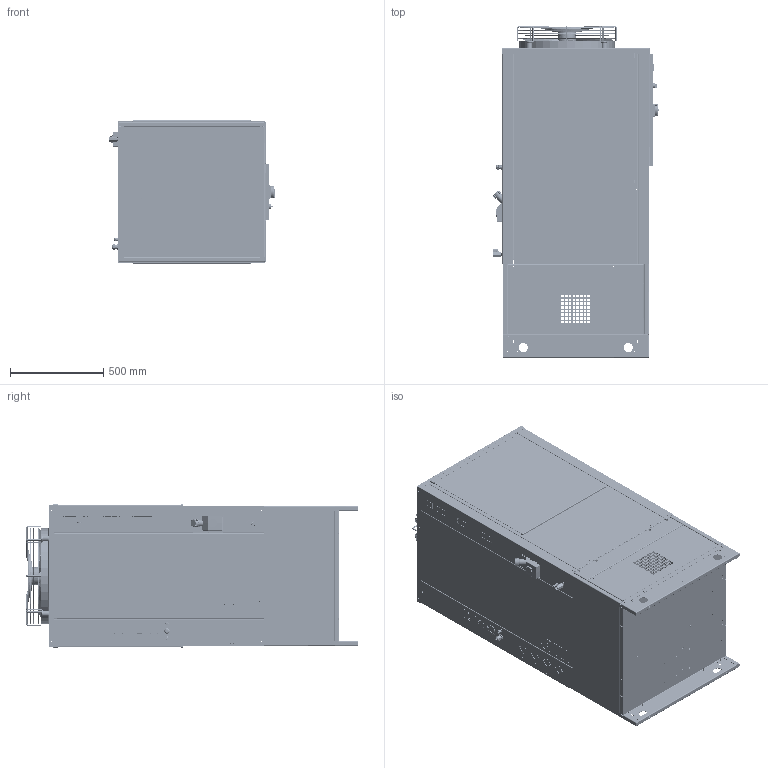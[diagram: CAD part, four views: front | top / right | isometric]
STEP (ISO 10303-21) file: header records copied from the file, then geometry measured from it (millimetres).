
FILE_DESCRIPTION (( 'STEP AP203' ), '1' );
FILE_NAME ('F2H-2C_REV_00.STEP', '2026-07-20T13:05:59', ( '' ), ( '' ), 'SwSTEP 2.0', 'SolidWorks 2023', '' );
FILE_SCHEMA (( 'CONFIG_CONTROL_DESIGN' ));
Length unit declared in the file: millimetre
Products named in the file (102): COPIA_VR-2F-00012_001; COPIA_T09-0146_DX; COPIA_CR-2F-00005_004; COPIA_CR-2F-00004_001; COPIA_G72-0024_2_SX; COPIA_350-012-C; COPIA_VR-2F-00012_001D_68X34; COPIA_CO-MI-00016  X0-CD0232-00(2)_DX_con bicchiere ; COPIA_PG 9_1_Socket-1.209.0900.14-Nelco; COPIA_VR-2F-00003_001; COPIA_VR-2F-00006_003; COPIA_VASCHETTA F2 COND DX 32; COPIA_VE-W5-00007_04; COPIA_T04-0187_DX; COPIA_VR-2F-00015_000; COPIA_VR-2F-00012_001B; COPIA_VR-2F-00014_000; COPIA_CO-MI-00017 - X0-CD0230-00(2)_SX; COPIA_T06-0208_2_SX; COPIA_PRT0002_11_AF0; COPIA_40-MI-E0009; COPIA_T04-0187_2_SX; COPIA_MOUSSE_ADESIVA_20X10_L645; COPIA_T06-0207_2_SX; COPIA_SE-RR-00025_000; COPIA_MOUSSE_ADESIVA_20X10_L659; COPIA_SE-RP-00044_002; COPIA_V84b-0644_2_SX; COPIA_VR-2F-00011_000; COPIA_CR-2F-00007_004; COPIA_CR-2F-00003_000; COPIA_COMPONENTI_VENTOLA_40-MI-E0009; COPIA_G72-0024_DX; COPIA_B72-0268_DX; COPIA_6D-400-S-018-2_22_AF0; COPIA_VR-2F-00007_004; COPIA_VA-A5-00001; COPIA_SELETTORE_NERO; COPIA_CO-MI-00016  X0-CD0232-00_DX; COPIA_Y0-CD0230_2_SX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
Assembly tree (219 placements, depth 8):
  F2H-2C_REV_00
    COPIA_40-MI-E0009
      COPIA_50-2F-00001-2_50-2F-00002_SENZA_BASE
        COPIA_VR-2F-00007_004
        COPIA_VR-2F-00008_003
        COPIA_VR-2F-00005_003
        COPIA_VR-2F-00006_003
        COPIA_CR-2F-00005_004
        COPIA_CR-2F-00006_003
          COPIA_CR-2F-00006_003A
          COPIA_CR-2F-00006_002B
        COPIA_VR-2F-00009_001
        COPIA_CR-2F-00007_004
          COPIA_CR-2F-00007_004
          COPIA_RIVELOX M5  x6
        COPIA_VR-2F-00010_000
        COPIA_VASCHETTA F2 COND SX 32
          COPIA_CO-MI-00017 - X0-CD0230-00(2)_SX
            COPIA_Y0-CD0230_2_SX
              COPIA_H48-0020_SX
              COPIA_H48-0021_2_SX
              COPIA_S82b-0690_2_SX  x10
              COPIA_B72-0268_2_SX  x10
              COPIA_V84b-0644_2_SX  x2
              COPIA_T03-0044_2_SX  x3
              COPIA_T04-0187_2_SX  x4
              COPIA_T06-0208_2_SX
              COPIA_T06-0207_2_SX
            COPIA_G82-0010_2_SX
            COPIA_G72-0024_2_SX
            COPIA_T09-0001_2_SX
            COPIA_T09-0146_2_SX
            COPIA_T09-0002_2_SX
          COPIA_PiedeCondensatoreDanfossD38  x4
          COPIA_CR-2F-00004_001
          COPIA_CR-2F-00003_000
        COPIA_VASCHETTA F2 COND DX 32
          COPIA_CO-MI-00016  X0-CD0232-00_DX
            COPIA_CO-MI-00016  X0-CD0232-00(2)_DX_con bicchiere 
              COPIA_Y0-CD0232_DX
                COPIA_H48-0020_DX
                COPIA_H48-0024_DX
                COPIA_S82b-0690_DX  x10
                COPIA_B72-0268_DX  x10
                COPIA_D01-CD0230P_DX  x2
                COPIA_T03-0044_DX  x3
                COPIA_T04-0187_DX  x4
                COPIA_T06-0208_DX
                COPIA_T06-0207_DX
              COPIA_G72-0024_DX
              COPIA_T09-0001_DX
              COPIA_T09-0146_DX
              COPIA_T09-0002_DX
              COPIA_TUBO-ACCORCIATO
          COPIA_PiedeCondensatoreDanfossD38  x4
          COPIA_CR-2F-00004_001
          COPIA_CR-2F-00003_000
        COPIA_VR-2F-00011_000
        COPIA_VR-2F-00012_001  x2
          COPIA_VR-2F-00012_001D_68X34
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Bounding box: 891.59 x 1776.2 x 767 mm (x, y, z)
Volume: 18304022.3 mm3; surface area: 25093619.7 mm2
Topology: 371 solids, 466 shells, 20405 faces, 53463 edges, 33863 vertices
Faces by surface type: plane 10660, cylinder 5180, bspline 2995, cone 925, torus 534, sphere 111
Entity records: 633362 total; most frequent: CARTESIAN_POINT 279794, ORIENTED_EDGE 77445, DIRECTION 58593, EDGE_CURVE 38944, VERTEX_POINT 24520, LINE 19775, VECTOR 19775, AXIS2_PLACEMENT_3D 19409
